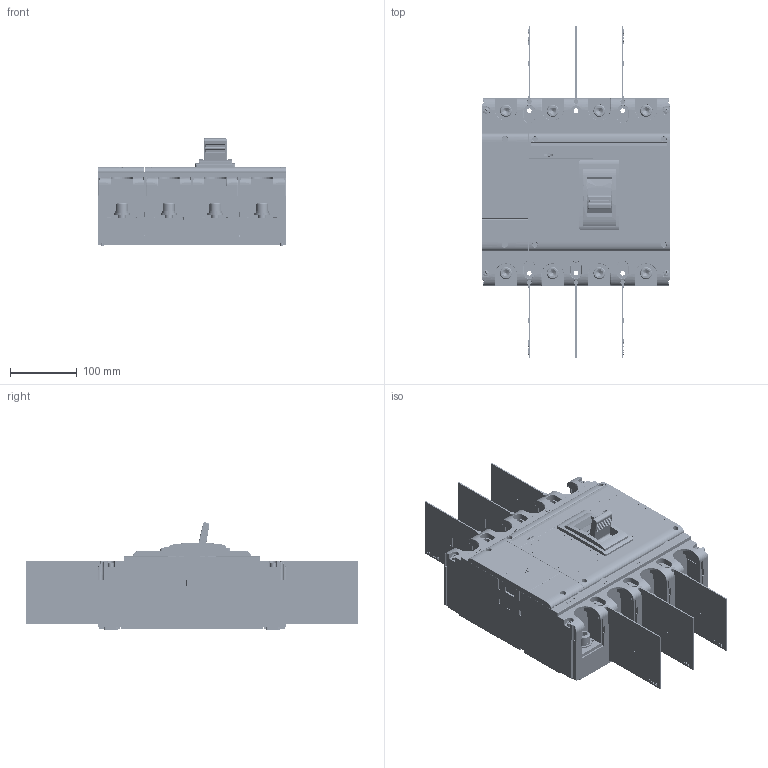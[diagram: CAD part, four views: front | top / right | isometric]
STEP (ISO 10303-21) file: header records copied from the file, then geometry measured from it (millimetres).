
FILE_DESCRIPTION (( 'STEP AP214' ), '1' );
FILE_NAME ('TGM1NE 800-4p.STEP', '2025-12-03T07:41:37', ( '' ), ( '' ), 'SwSTEP 2.0', 'SolidWorks 2024', '' );
FILE_SCHEMA (( 'AUTOMOTIVE_DESIGN' ));
Length unit declared in the file: millimetre
Products named in the file (11): 2TZD_589_6105_2_SW0001_6.stp; 2TZD_589_6105_2_SW0001_3.stp; 2TZD_589_6105_2_SW0001_4.stp; 2TZD_589_6105_2_SW0001_8.stp; 2TZD_589_6105_2_SW0001_9.stp; TGM1NE 800-4p.stp; TGM1NE 800-4p; 2TZD_589_6105_2_SW0001_5.stp; 2TZD_589_6105_2_SW0001_1.stp; 2TZD_589_6105_2_SW0001_2.stp; 2TZD_589_6105_2_SW0001_7.stp
Assembly tree (10 placements, depth 3):
  TGM1NE 800-4p
    TGM1NE 800-4p.stp
      2TZD_589_6105_2_SW0001_1.stp
      2TZD_589_6105_2_SW0001_2.stp
      2TZD_589_6105_2_SW0001_3.stp
      2TZD_589_6105_2_SW0001_4.stp
      2TZD_589_6105_2_SW0001_5.stp
      2TZD_589_6105_2_SW0001_6.stp
      2TZD_589_6105_2_SW0001_7.stp
      2TZD_589_6105_2_SW0001_8.stp
      2TZD_589_6105_2_SW0001_9.stp
Bounding box: 282 x 497 x 160.59 mm (x, y, z)
Volume: 3330062.3 mm3; surface area: 1321244.5 mm2
Topology: 9 solids, 9 shells, 10548 faces, 28582 edges, 18279 vertices
Faces by surface type: plane 7618, cylinder 2057, bspline 313, sphere 196, torus 192, cone 172
Entity records: 353097 total; most frequent: CARTESIAN_POINT 87765, ORIENTED_EDGE 56844, DIRECTION 52429, EDGE_CURVE 28422, VECTOR 22389, LINE 22389, VERTEX_POINT 18258, AXIS2_PLACEMENT_3D 15020
